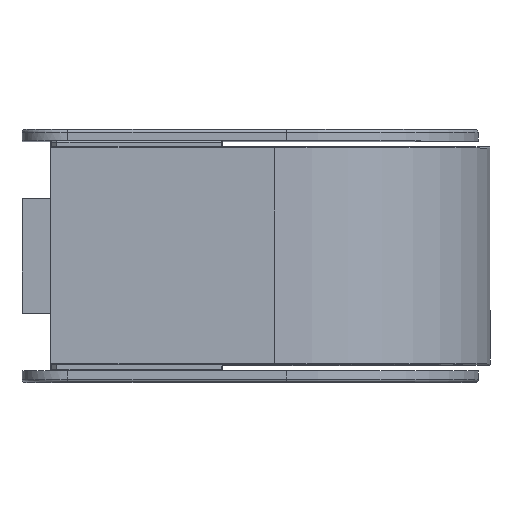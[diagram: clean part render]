
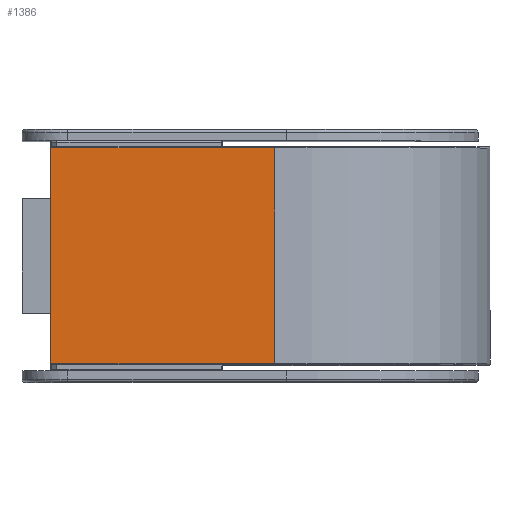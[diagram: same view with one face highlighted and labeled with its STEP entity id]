
A CAD part, top view. The second image highlights one B-rep face of the part: STEP entity #1386.
In plain terms, the highlighted planar face has unit normal (0, 0, 1).
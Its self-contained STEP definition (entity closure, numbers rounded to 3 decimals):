
#879=CARTESIAN_POINT('',(44.,28.8,19.5));
#880=VERTEX_POINT('',#879);
#1311=CARTESIAN_POINT('',(44.,-8.8,19.5));
#1312=VERTEX_POINT('',#1311);
#1346=CARTESIAN_POINT('',(44.,-8.8,19.5));
#1347=DIRECTION('',(0.0,1.0,0.0));
#1348=VECTOR('',#1347,37.6);
#1349=LINE('',#1346,#1348);
#1350=EDGE_CURVE('',#1312,#880,#1349,.T.);
#1356=CARTESIAN_POINT('',(5.,-8.8,19.5));
#1357=DIRECTION('',(0.0,0.0,1.0));
#1358=DIRECTION('',(-1.0,0.0,0.0));
#1359=AXIS2_PLACEMENT_3D('',#1356,#1357,#1358);
#1360=PLANE('',#1359);
#1361=ORIENTED_EDGE('',*,*,#1350,.T.);
#1362=CARTESIAN_POINT('',(5.,28.8,19.5));
#1363=VERTEX_POINT('',#1362);
#1364=CARTESIAN_POINT('',(5.,28.8,19.5));
#1365=DIRECTION('',(1.0,0.0,0.0));
#1366=VECTOR('',#1365,39.0);
#1367=LINE('',#1364,#1366);
#1368=EDGE_CURVE('',#1363,#880,#1367,.T.);
#1369=ORIENTED_EDGE('',*,*,#1368,.F.);
#1370=CARTESIAN_POINT('',(5.,-8.8,19.5));
#1371=VERTEX_POINT('',#1370);
#1372=CARTESIAN_POINT('',(5.,-8.8,19.5));
#1373=DIRECTION('',(0.0,1.0,0.0));
#1374=VECTOR('',#1373,37.6);
#1375=LINE('',#1372,#1374);
#1376=EDGE_CURVE('',#1371,#1363,#1375,.T.);
#1377=ORIENTED_EDGE('',*,*,#1376,.F.);
#1378=CARTESIAN_POINT('',(5.,-8.8,19.5));
#1379=DIRECTION('',(1.0,0.0,0.0));
#1380=VECTOR('',#1379,39.0);
#1381=LINE('',#1378,#1380);
#1382=EDGE_CURVE('',#1371,#1312,#1381,.T.);
#1383=ORIENTED_EDGE('',*,*,#1382,.T.);
#1384=EDGE_LOOP('',(#1361,#1369,#1377,#1383));
#1385=FACE_OUTER_BOUND('',#1384,.T.);
#1386=ADVANCED_FACE('',(#1385),#1360,.T.);
